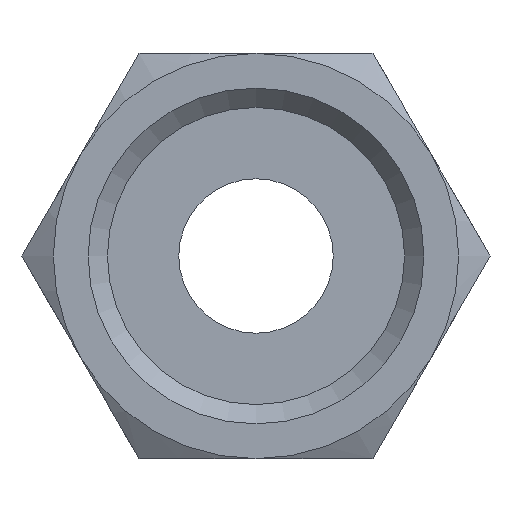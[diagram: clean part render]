
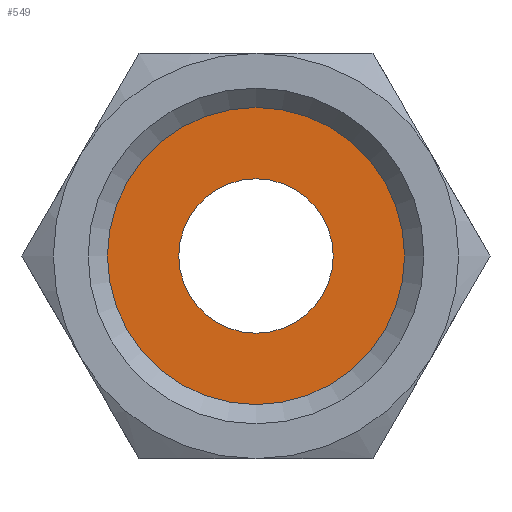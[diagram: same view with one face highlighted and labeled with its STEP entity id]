
A CAD part, front view. The second image highlights one B-rep face of the part: STEP entity #549.
In plain terms, the highlighted planar face has unit normal (0, -1, 0).
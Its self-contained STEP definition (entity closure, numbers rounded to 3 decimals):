
#43=FACE_BOUND('',#134,.T.);
#56=PLANE('',#635);
#95=FACE_OUTER_BOUND('',#133,.T.);
#133=EDGE_LOOP('',(#473,#474));
#134=EDGE_LOOP('',(#475,#476));
#195=CIRCLE('',#605,7.698);
#196=CIRCLE('',#606,7.698);
#205=CIRCLE('',#636,4.);
#206=CIRCLE('',#637,4.);
#235=VERTEX_POINT('',#875);
#236=VERTEX_POINT('',#877);
#257=VERTEX_POINT('',#1008);
#258=VERTEX_POINT('',#1009);
#293=EDGE_CURVE('',#236,#235,#195,.T.);
#294=EDGE_CURVE('',#235,#236,#196,.T.);
#334=EDGE_CURVE('',#257,#258,#205,.T.);
#335=EDGE_CURVE('',#258,#257,#206,.T.);
#473=ORIENTED_EDGE('',*,*,#293,.T.);
#474=ORIENTED_EDGE('',*,*,#294,.T.);
#475=ORIENTED_EDGE('',*,*,#334,.F.);
#476=ORIENTED_EDGE('',*,*,#335,.F.);
#549=ADVANCED_FACE('',(#95,#43),#56,.T.);
#605=AXIS2_PLACEMENT_3D('',#878,#717,#718);
#606=AXIS2_PLACEMENT_3D('',#879,#719,#720);
#635=AXIS2_PLACEMENT_3D('',#1007,#784,#785);
#636=AXIS2_PLACEMENT_3D('',#1010,#786,#787);
#637=AXIS2_PLACEMENT_3D('',#1011,#788,#789);
#717=DIRECTION('center_axis',(0.,-1.,0.));
#718=DIRECTION('ref_axis',(1.,0.,0.));
#719=DIRECTION('center_axis',(0.,-1.,0.));
#720=DIRECTION('ref_axis',(1.,0.,0.));
#784=DIRECTION('center_axis',(0.,-1.,0.));
#785=DIRECTION('ref_axis',(0.,0.,-1.));
#786=DIRECTION('center_axis',(0.,-1.,0.));
#787=DIRECTION('ref_axis',(1.,0.,0.));
#788=DIRECTION('center_axis',(0.,-1.,0.));
#789=DIRECTION('ref_axis',(1.,0.,0.));
#875=CARTESIAN_POINT('',(-7.698,12.,0.));
#877=CARTESIAN_POINT('',(7.698,12.,0.));
#878=CARTESIAN_POINT('Origin',(0.,12.,0.));
#879=CARTESIAN_POINT('Origin',(0.,12.,0.));
#1007=CARTESIAN_POINT('Origin',(4.,12.,0.));
#1008=CARTESIAN_POINT('',(4.,12.,0.));
#1009=CARTESIAN_POINT('',(-4.,12.,0.));
#1010=CARTESIAN_POINT('Origin',(0.,12.,0.));
#1011=CARTESIAN_POINT('Origin',(0.,12.,0.));
